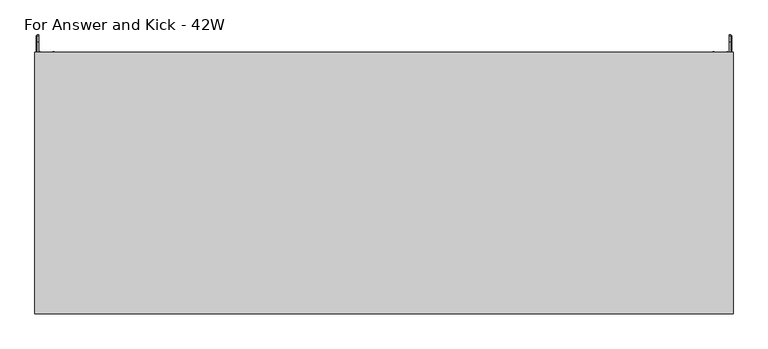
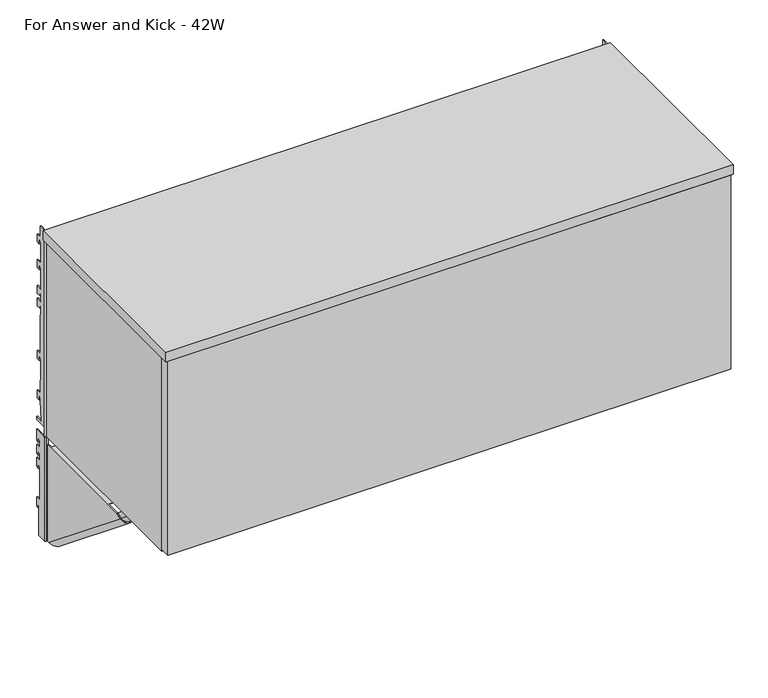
"""IFC4 building model written with IfcOpenShell, lengths in millimetres: furniture geometry, Steelcase - Universal Storage - In the Case Bin - Flat Front : For Answer and Kick - 42W."""

from ifc_helpers import new_model, si_unit, point, frame, frame_2d, origin, place, context, project, spatial, polyline, circle_curve, ellipse_curve, trimmed, segment, composite_curve, outline, extrude, faceted_brep, source, transform, mapped, element, save
from ifc_brep_helpers import plane_surface, cylinder_surface, revolved_surface, advanced_brep


def for_answer_and_kick_42w_aae77ef0(model_context):
    return source(origin(), model_context, "Body", "SolidModel", [
        advanced_brep(
        [(4.0894, 24.9864881, 1247.9655), (4.0894, 1.1327479, 1247.9655), (4.0894, 1.1203386, 1040.9809), (4.0894, 17.3410881, 1040.9809), (4.0894, 17.3410881, 1101.1280822), (4.0894, 21.4050888, 1101.1280822), (4.0894, 21.4050888, 1094.7781064), (4.0894, 24.9864881, 1094.7781064), (4.0894, 24.9864881, 1113.0407271), (4.0894, 14.7756879, 1113.0407271), (4.0894, 14.7756879, 1179.6141345), (4.0894, 18.8396885, 1179.6141345), (4.0894, 18.8396885, 1173.264086), (4.0894, 24.9864881, 1173.264086), (4.0894, 24.9864881, 1191.5267068), (4.0894, 14.7756879, 1191.5267068), (4.0894, 14.7756879, 1205.7761277), (4.0894, 18.8396885, 1205.7761277), (4.0894, 18.8396885, 1199.4260793), (4.0894, 24.9864881, 1199.4260793), (4.0894, 24.9864881, 1217.6887), (4.0894, 14.7756879, 1217.6887), (4.0894, 14.7756879, 1231.9381209), (4.0894, 18.8396885, 1231.9381209), (4.0894, 18.8396885, 1225.5880725), (4.0894, 24.9864881, 1225.5880725), (2.1844, 24.9864881, 1247.9655), (2.1844, 24.9864881, 1225.5880725), (2.1844, 18.8396885, 1225.5880725), (2.1844, 18.8396885, 1231.9381209), (2.1844, 14.7756879, 1231.9381209), (2.1844, 14.7756879, 1217.6887), (2.1844, 24.9864881, 1217.6887), (2.1844, 24.9864881, 1199.4260793), (2.1844, 18.8396885, 1199.4260793), (2.1844, 18.8396885, 1205.7761277), (2.1844, 14.7756879, 1205.7761277), (2.1844, 14.7756879, 1191.5267068), (2.1844, 24.9864881, 1191.5267068), (2.1844, 24.9864881, 1173.264086), (2.1844, 18.8396885, 1173.264086), (2.1844, 18.8396885, 1179.6141345), (2.1844, 14.7756879, 1179.6141345), (2.1844, 14.7756879, 1113.0407271), (2.1844, 24.9864881, 1113.0407271), (2.1844, 24.9864881, 1094.7781064), (2.1844, 21.4050888, 1094.7781064), (2.1844, 21.4050888, 1101.1280822), (2.1844, 17.3410881, 1101.1280822), (2.1844, 17.3410881, 1040.9809), (2.1844, -0.7757522, 1040.9809), (2.1844, -0.7757522, 1247.9655), (4.4891598, -3.080512, 1247.9655), (8.1026, -3.080512, 1247.9655), (8.1026, -1.7838863, 1247.9655), (7.4942256, -1.175512, 1247.9655), (6.3852506, -1.175512, 1247.9655), (6.3852506, -1.175512, 1040.9809), (7.4942256, -1.175512, 1040.9809), (8.1026, -1.7838863, 1040.9809), (8.1026, -3.080512, 1040.9809), (4.4891598, -3.080512, 1040.9809)],
        [
            (0, 1),
            (1, 2),
            (2, 3),
            (3, 4),
            (4, 5),
            (5, 6),
            (6, 7),
            (7, 8),
            (8, 9),
            (9, 10),
            (10, 11),
            (11, 12),
            (12, 13),
            (13, 14),
            (14, 15),
            (15, 16),
            (16, 17),
            (17, 18),
            (18, 19),
            (19, 20),
            (20, 21),
            (21, 22),
            (22, 23),
            (23, 24),
            (24, 25),
            (25, 0),
            (26, 27),
            (27, 28),
            (28, 29),
            (29, 30),
            (30, 31),
            (31, 32),
            (32, 33),
            (33, 34),
            (34, 35),
            (35, 36),
            (36, 37),
            (37, 38),
            (38, 39),
            (39, 40),
            (40, 41),
            (41, 42),
            (42, 43),
            (43, 44),
            (44, 45),
            (45, 46),
            (46, 47),
            (47, 48),
            (48, 49),
            (49, 50),
            (50, 51),
            (51, 26),
            (0, 26),
            (51, 52, circle_curve(frame((4.4891598, -0.7757522, 1247.9655), z_axis=(0.0, 0.0, 1.0), x_axis=(1.0, 0.0, 0.0)), 2.3047598)),
            (52, 53),
            (53, 54),
            (54, 55, circle_curve(frame((7.4942256, -1.7838863, 1247.9655), z_axis=(0.0, 0.0, 1.0), x_axis=(1.0, 0.0, 0.0)), 0.6083744)),
            (55, 56),
            (56, 1, circle_curve(frame((6.3852506, 1.1203386, 1247.9655), z_axis=(0.0, 0.0, -1.0), x_axis=(1.0, 0.0, 0.0)), 2.2958506)),
            (2, 57, circle_curve(frame((6.3852506, 1.1203386, 1040.9809), z_axis=(0.0, 0.0, 1.0), x_axis=(1.0, 0.0, 0.0)), 2.2958506)),
            (57, 58),
            (58, 59, circle_curve(frame((7.4942256, -1.7838863, 1040.9809), z_axis=(0.0, 0.0, -1.0), x_axis=(1.0, 0.0, 0.0)), 0.6083744)),
            (59, 60),
            (60, 61),
            (61, 50, circle_curve(frame((4.4891598, -0.7757522, 1040.9809), z_axis=(0.0, 0.0, -1.0), x_axis=(1.0, 0.0, 0.0)), 2.3047598)),
            (49, 3),
            (48, 4),
            (47, 5),
            (46, 6),
            (45, 7),
            (44, 8),
            (43, 9),
            (42, 10),
            (41, 11),
            (40, 12),
            (39, 13),
            (38, 14),
            (37, 15),
            (36, 16),
            (35, 17),
            (34, 18),
            (33, 19),
            (32, 20),
            (31, 21),
            (30, 22),
            (29, 23),
            (28, 24),
            (27, 25),
            (61, 52),
            (60, 53),
            (59, 54),
            (58, 55),
            (57, 56),
        ],
        [
            plane_surface(frame((4.0894, 1.241405, 1247.9655), z_axis=(1.0, 0.0, 0.0), x_axis=(0.0, -1.0, 0.0))),
            plane_surface(frame((2.1844, 1.241405, 1247.9655), z_axis=(-1.0, 0.0, 0.0), x_axis=(0.0, 1.0, 0.0))),
            plane_surface(frame((4.0894, 24.9864881, 1247.9655), z_axis=(0.0, 0.0, 1.0), x_axis=(-1.0, 0.0, 0.0))),
            plane_surface(frame((4.0894, 1.1327479, 1040.9809), z_axis=(0.0, 0.0, -1.0), x_axis=(-1.0, 0.0, 0.0))),
            plane_surface(frame((4.0894, 17.3410881, 1040.9809), z_axis=(0.0, 1.0, 0.0), x_axis=(-1.0, 0.0, 0.0))),
            plane_surface(frame((4.0894, 17.3410881, 1101.1280822), z_axis=(0.0, 0.0, -1.0), x_axis=(-1.0, 0.0, 0.0))),
            plane_surface(frame((4.0894, 21.4050888, 1101.1280822), z_axis=(0.0, -1.0, 0.0), x_axis=(-1.0, 0.0, 0.0))),
            plane_surface(frame((4.0894, 21.4050888, 1094.7781064), z_axis=(0.0, 0.0, -1.0), x_axis=(-1.0, 0.0, 0.0))),
            plane_surface(frame((4.0894, 24.9864881, 1094.7781064), z_axis=(0.0, 1.0, 0.0), x_axis=(-1.0, 0.0, 0.0))),
            plane_surface(frame((4.0894, 24.9864881, 1113.0407271), z_axis=(0.0, 0.0, 1.0), x_axis=(-1.0, 0.0, 0.0))),
            plane_surface(frame((4.0894, 14.7756879, 1113.0407271), z_axis=(0.0, 1.0, 0.0), x_axis=(-1.0, 0.0, 0.0))),
            plane_surface(frame((4.0894, 14.7756879, 1179.6141345), z_axis=(0.0, 0.0, -1.0), x_axis=(-1.0, 0.0, 0.0))),
            plane_surface(frame((4.0894, 18.8396885, 1179.6141345), z_axis=(0.0, -1.0, 0.0), x_axis=(-1.0, 0.0, 0.0))),
            plane_surface(frame((4.0894, 18.8396885, 1173.264086), z_axis=(0.0, 0.0, -1.0), x_axis=(-1.0, 0.0, 0.0))),
            plane_surface(frame((4.0894, 24.9864881, 1173.264086), z_axis=(0.0, 1.0, 0.0), x_axis=(-1.0, 0.0, 0.0))),
            plane_surface(frame((4.0894, 24.9864881, 1191.5267068), z_axis=(0.0, 0.0, 1.0), x_axis=(-1.0, 0.0, 0.0))),
            plane_surface(frame((4.0894, 14.7756879, 1191.5267068), z_axis=(0.0, 1.0, 0.0), x_axis=(-1.0, 0.0, 0.0))),
            plane_surface(frame((4.0894, 14.7756879, 1205.7761277), z_axis=(0.0, 0.0, -1.0), x_axis=(-1.0, 0.0, 0.0))),
            plane_surface(frame((4.0894, 18.8396885, 1205.7761277), z_axis=(0.0, -1.0, 0.0), x_axis=(-1.0, 0.0, 0.0))),
            plane_surface(frame((4.0894, 18.8396885, 1199.4260793), z_axis=(0.0, 0.0, -1.0), x_axis=(-1.0, 0.0, 0.0))),
            plane_surface(frame((4.0894, 24.9864881, 1199.4260793), z_axis=(0.0, 1.0, 0.0), x_axis=(-1.0, 0.0, 0.0))),
            plane_surface(frame((4.0894, 24.9864881, 1217.6887), z_axis=(0.0, 0.0, 1.0), x_axis=(-1.0, 0.0, 0.0))),
            plane_surface(frame((4.0894, 14.7756879, 1217.6887), z_axis=(0.0, 1.0, 0.0), x_axis=(-1.0, 0.0, 0.0))),
            plane_surface(frame((4.0894, 14.7756879, 1231.9381209), z_axis=(0.0, 0.0, -1.0), x_axis=(-1.0, 0.0, 0.0))),
            plane_surface(frame((4.0894, 18.8396885, 1231.9381209), z_axis=(0.0, -1.0, 0.0), x_axis=(-1.0, 0.0, 0.0))),
            plane_surface(frame((4.0894, 18.8396885, 1225.5880725), z_axis=(0.0, 0.0, -1.0), x_axis=(-1.0, 0.0, 0.0))),
            plane_surface(frame((4.0894, 24.9864881, 1225.5880725), z_axis=(0.0, 1.0, 0.0), x_axis=(-1.0, 0.0, 0.0))),
            cylinder_surface(frame((4.4891598, -0.7757522, 1040.9809), z_axis=(0.0, 0.0, 1.0), x_axis=(1.0, 0.0, 0.0)), 2.3047598),
            plane_surface(frame((4.4891598, -3.080512, 1247.9655), z_axis=(0.0, -1.0, 0.0), x_axis=(0.0, 0.0, -1.0))),
            plane_surface(frame((8.1026, -3.080512, 1247.9655), z_axis=(1.0, 0.0, 0.0), x_axis=(0.0, 0.0, -1.0))),
            cylinder_surface(frame((7.4942256, -1.7838863, 1040.9809), z_axis=(0.0, 0.0, 1.0), x_axis=(1.0, 0.0, 0.0)), 0.6083744),
            plane_surface(frame((7.4942256, -1.175512, 1247.9655), z_axis=(0.0, 1.0, 0.0), x_axis=(0.0, 0.0, -1.0))),
            revolved_surface(polyline([(8.6811012, 1.1203386, 1040.9809), (8.6811012, 1.1203386, 1247.9655)]), (6.3852506, 1.1203386, 1040.9809), (0.0, 0.0, -1.0)),
        ],
        [
            (0, [[1, 2, 3, 4, 5, 6, 7, 8, 9, 10, 11, 12, 13, 14, 15, 16, 17, 18, 19, 20, 21, 22, 23, 24, 25, 26]]),
            (1, [[27, 28, 29, 30, 31, 32, 33, 34, 35, 36, 37, 38, 39, 40, 41, 42, 43, 44, 45, 46, 47, 48, 49, 50, 51, 52]]),
            (2, [[-1, 53, -52, 54, 55, 56, 57, 58, 59]]),
            (3, [[-3, 60, 61, 62, 63, 64, 65, -50, 66]]),
            (4, [[-4, -66, -49, 67]]),
            (5, [[-5, -67, -48, 68]]),
            (6, [[-6, -68, -47, 69]]),
            (7, [[-7, -69, -46, 70]]),
            (8, [[-8, -70, -45, 71]]),
            (9, [[-9, -71, -44, 72]]),
            (10, [[-10, -72, -43, 73]]),
            (11, [[-11, -73, -42, 74]]),
            (12, [[-12, -74, -41, 75]]),
            (13, [[-13, -75, -40, 76]]),
            (14, [[-14, -76, -39, 77]]),
            (15, [[-15, -77, -38, 78]]),
            (16, [[-16, -78, -37, 79]]),
            (17, [[-17, -79, -36, 80]]),
            (18, [[-18, -80, -35, 81]]),
            (19, [[-19, -81, -34, 82]]),
            (20, [[-20, -82, -33, 83]]),
            (21, [[-21, -83, -32, 84]]),
            (22, [[-22, -84, -31, 85]]),
            (23, [[-23, -85, -30, 86]]),
            (24, [[-24, -86, -29, 87]]),
            (25, [[-25, -87, -28, 88]]),
            (26, [[-26, -88, -27, -53]]),
            (27, [[-54, -51, -65, 89]]),
            (28, [[-55, -89, -64, 90]]),
            (29, [[-56, -90, -63, 91]]),
            (30, [[-57, -91, -62, 92]]),
            (31, [[-58, -92, -61, 93]]),
            (32, [[-59, -93, -60, -2]]),
        ],
    ),
        advanced_brep(
        [(1062.7106, 24.9864881, 1247.9655), (1062.7106, 24.9864881, 1225.5880725), (1062.7106, 18.8396885, 1225.5880725), (1062.7106, 18.8396885, 1231.9381209), (1062.7106, 14.7756879, 1231.9381209), (1062.7106, 14.7756879, 1217.6887), (1062.7106, 24.9864881, 1217.6887), (1062.7106, 24.9864881, 1199.4260793), (1062.7106, 18.8396885, 1199.4260793), (1062.7106, 18.8396885, 1205.7761277), (1062.7106, 14.7756879, 1205.7761277), (1062.7106, 14.7756879, 1191.5267068), (1062.7106, 24.9864881, 1191.5267068), (1062.7106, 24.9864881, 1173.264086), (1062.7106, 18.8396885, 1173.264086), (1062.7106, 18.8396885, 1179.6141345), (1062.7106, 14.7756879, 1179.6141345), (1062.7106, 14.7756879, 1113.0407271), (1062.7106, 24.9864881, 1113.0407271), (1062.7106, 24.9864881, 1094.7781064), (1062.7106, 21.4050888, 1094.7781064), (1062.7106, 21.4050888, 1101.1280822), (1062.7106, 17.3410881, 1101.1280822), (1062.7106, 17.3410881, 1040.9809), (1062.7106, 1.1327479, 1040.9809), (1062.7106, 1.1203386, 1247.9655), (1064.6156, -0.7757522, 1247.9655), (1064.6156, -0.7757522, 1040.9809), (1064.6156, 17.3410881, 1040.9809), (1064.6156, 17.3410881, 1101.1280822), (1064.6156, 21.4050888, 1101.1280822), (1064.6156, 21.4050888, 1094.7781064), (1064.6156, 24.9864881, 1094.7781064), (1064.6156, 24.9864881, 1113.0407271), (1064.6156, 14.7756879, 1113.0407271), (1064.6156, 14.7756879, 1179.6141345), (1064.6156, 18.8396885, 1179.6141345), (1064.6156, 18.8396885, 1173.264086), (1064.6156, 24.9864881, 1173.264086), (1064.6156, 24.9864881, 1191.5267068), (1064.6156, 14.7756879, 1191.5267068), (1064.6156, 14.7756879, 1205.7761277), (1064.6156, 18.8396885, 1205.7761277), (1064.6156, 18.8396885, 1199.4260793), (1064.6156, 24.9864881, 1199.4260793), (1064.6156, 24.9864881, 1217.6887), (1064.6156, 14.7756879, 1217.6887), (1064.6156, 14.7756879, 1231.9381209), (1064.6156, 18.8396885, 1231.9381209), (1064.6156, 18.8396885, 1225.5880725), (1064.6156, 24.9864881, 1225.5880725), (1064.6156, 24.9864881, 1247.9655), (1062.3108402, -3.080512, 1040.9809), (1058.9006, -3.080512, 1040.9809), (1058.9006, -1.7838863, 1040.9809), (1059.5089744, -1.175512, 1040.9809), (1060.4147494, -1.175512, 1040.9809), (1060.4147494, -1.175512, 1247.9655), (1059.5089744, -1.175512, 1247.9655), (1058.9006, -1.7838863, 1247.9655), (1058.9006, -3.080512, 1247.9655), (1062.3108402, -3.080512, 1247.9655)],
        [
            (0, 1),
            (1, 2),
            (2, 3),
            (3, 4),
            (4, 5),
            (5, 6),
            (6, 7),
            (7, 8),
            (8, 9),
            (9, 10),
            (10, 11),
            (11, 12),
            (12, 13),
            (13, 14),
            (14, 15),
            (15, 16),
            (16, 17),
            (17, 18),
            (18, 19),
            (19, 20),
            (20, 21),
            (21, 22),
            (22, 23),
            (23, 24),
            (24, 25),
            (25, 0),
            (26, 27),
            (27, 28),
            (28, 29),
            (29, 30),
            (30, 31),
            (31, 32),
            (32, 33),
            (33, 34),
            (34, 35),
            (35, 36),
            (36, 37),
            (37, 38),
            (38, 39),
            (39, 40),
            (40, 41),
            (41, 42),
            (42, 43),
            (43, 44),
            (44, 45),
            (45, 46),
            (46, 47),
            (47, 48),
            (48, 49),
            (49, 50),
            (50, 51),
            (51, 26),
            (0, 51),
            (50, 1),
            (49, 2),
            (48, 3),
            (47, 4),
            (46, 5),
            (45, 6),
            (44, 7),
            (43, 8),
            (42, 9),
            (41, 10),
            (40, 11),
            (39, 12),
            (38, 13),
            (37, 14),
            (36, 15),
            (35, 16),
            (34, 17),
            (33, 18),
            (32, 19),
            (31, 20),
            (30, 21),
            (29, 22),
            (28, 23),
            (27, 52, circle_curve(frame((1062.3108402, -0.7757522, 1040.9809), z_axis=(0.0, 0.0, -1.0), x_axis=(0.0, 1.0, 0.0)), 2.3047598)),
            (52, 53),
            (53, 54),
            (54, 55, circle_curve(frame((1059.5089744, -1.7838863, 1040.9809), z_axis=(0.0, 0.0, -1.0), x_axis=(0.0, 1.0, 0.0)), 0.6083744)),
            (55, 56),
            (56, 24, circle_curve(frame((1060.4147494, 1.1203386, 1040.9809), z_axis=(0.0, 0.0, 1.0), x_axis=(0.0, 1.0, 0.0)), 2.2958506)),
            (25, 57, circle_curve(frame((1060.4147494, 1.1203386, 1247.9655), z_axis=(0.0, 0.0, -1.0), x_axis=(0.0, 1.0, 0.0)), 2.2958506)),
            (57, 58),
            (58, 59, circle_curve(frame((1059.5089744, -1.7838863, 1247.9655), z_axis=(0.0, 0.0, 1.0), x_axis=(0.0, 1.0, 0.0)), 0.6083744)),
            (59, 60),
            (60, 61),
            (61, 26, circle_curve(frame((1062.3108402, -0.7757522, 1247.9655), z_axis=(0.0, 0.0, 1.0), x_axis=(0.0, 1.0, 0.0)), 2.3047598)),
            (56, 57),
            (55, 58),
            (54, 59),
            (53, 60),
            (52, 61),
        ],
        [
            plane_surface(frame((1062.7106, 24.9864881, 1247.9655), z_axis=(-1.0, 0.0, 0.0), x_axis=(0.0, 0.0, -1.0))),
            plane_surface(frame((1064.6156, 24.9864881, 1247.9655), z_axis=(1.0, 0.0, 0.0), x_axis=(0.0, 0.0, 1.0))),
            plane_surface(frame((1062.7106, 24.9864881, 1247.9655), z_axis=(0.0, 1.0, 0.0), x_axis=(1.0, 0.0, 0.0))),
            plane_surface(frame((1062.7106, 24.9864881, 1225.5880725), z_axis=(0.0, 0.0, -1.0), x_axis=(1.0, 0.0, 0.0))),
            plane_surface(frame((1062.7106, 18.8396885, 1225.5880725), z_axis=(0.0, -1.0, 0.0), x_axis=(1.0, 0.0, 0.0))),
            plane_surface(frame((1062.7106, 18.8396885, 1231.9381209), z_axis=(0.0, 0.0, -1.0), x_axis=(1.0, 0.0, 0.0))),
            plane_surface(frame((1062.7106, 14.7756879, 1231.9381209), z_axis=(0.0, 1.0, 0.0), x_axis=(1.0, 0.0, 0.0))),
            plane_surface(frame((1062.7106, 14.7756879, 1217.6887), z_axis=(0.0, 0.0, 1.0), x_axis=(1.0, 0.0, 0.0))),
            plane_surface(frame((1062.7106, 24.9864881, 1217.6887), z_axis=(0.0, 1.0, 0.0), x_axis=(1.0, 0.0, 0.0))),
            plane_surface(frame((1062.7106, 24.9864881, 1199.4260793), z_axis=(0.0, 0.0, -1.0), x_axis=(1.0, 0.0, 0.0))),
            plane_surface(frame((1062.7106, 18.8396885, 1199.4260793), z_axis=(0.0, -1.0, 0.0), x_axis=(1.0, 0.0, 0.0))),
            plane_surface(frame((1062.7106, 18.8396885, 1205.7761277), z_axis=(0.0, 0.0, -1.0), x_axis=(1.0, 0.0, 0.0))),
            plane_surface(frame((1062.7106, 14.7756879, 1205.7761277), z_axis=(0.0, 1.0, 0.0), x_axis=(1.0, 0.0, 0.0))),
            plane_surface(frame((1062.7106, 14.7756879, 1191.5267068), z_axis=(0.0, 0.0, 1.0), x_axis=(1.0, 0.0, 0.0))),
            plane_surface(frame((1062.7106, 24.9864881, 1191.5267068), z_axis=(0.0, 1.0, 0.0), x_axis=(1.0, 0.0, 0.0))),
            plane_surface(frame((1062.7106, 24.9864881, 1173.264086), z_axis=(0.0, 0.0, -1.0), x_axis=(1.0, 0.0, 0.0))),
            plane_surface(frame((1062.7106, 18.8396885, 1173.264086), z_axis=(0.0, -1.0, 0.0), x_axis=(1.0, 0.0, 0.0))),
            plane_surface(frame((1062.7106, 18.8396885, 1179.6141345), z_axis=(0.0, 0.0, -1.0), x_axis=(1.0, 0.0, 0.0))),
            plane_surface(frame((1062.7106, 14.7756879, 1179.6141345), z_axis=(0.0, 1.0, 0.0), x_axis=(1.0, 0.0, 0.0))),
            plane_surface(frame((1062.7106, 14.7756879, 1113.0407271), z_axis=(0.0, 0.0, 1.0), x_axis=(1.0, 0.0, 0.0))),
            plane_surface(frame((1062.7106, 24.9864881, 1113.0407271), z_axis=(0.0, 1.0, 0.0), x_axis=(1.0, 0.0, 0.0))),
            plane_surface(frame((1062.7106, 24.9864881, 1094.7781064), z_axis=(0.0, 0.0, -1.0), x_axis=(1.0, 0.0, 0.0))),
            plane_surface(frame((1062.7106, 21.4050888, 1094.7781064), z_axis=(0.0, -1.0, 0.0), x_axis=(1.0, 0.0, 0.0))),
            plane_surface(frame((1062.7106, 21.4050888, 1101.1280822), z_axis=(0.0, 0.0, -1.0), x_axis=(1.0, 0.0, 0.0))),
            plane_surface(frame((1062.7106, 17.3410881, 1101.1280822), z_axis=(0.0, 1.0, 0.0), x_axis=(1.0, 0.0, 0.0))),
            plane_surface(frame((1062.7106, 17.3410881, 1040.9809), z_axis=(0.0, 0.0, -1.0), x_axis=(1.0, 0.0, 0.0))),
            plane_surface(frame((1062.7106, 1.1327479, 1247.9655), z_axis=(0.0, 0.0, 1.0), x_axis=(1.0, 0.0, 0.0))),
            revolved_surface(polyline([(1060.4147494, 3.4161892, 1040.9809), (1060.4147494, 3.4161892, 1247.9655)]), (1060.4147494, 1.1203386, 1040.9809), (0.0, 0.0, -1.0)),
            plane_surface(frame((1060.4147494, -1.175512, 1247.9655), z_axis=(3.8388970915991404e-11, 1.0, 0.0), x_axis=(0.0, 0.0, -1.0))),
            cylinder_surface(frame((1059.5089744, -1.7838863, 1040.9809), z_axis=(0.0, 0.0, 1.0), x_axis=(0.0, 1.0, 0.0)), 0.6083744),
            plane_surface(frame((1058.9006, -1.7838863, 1247.9655), z_axis=(-1.0, 0.0, 0.0), x_axis=(0.0, 0.0, -1.0))),
            plane_surface(frame((1058.9006, -3.080512, 1247.9655), z_axis=(6.7372088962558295e-12, -1.0, 0.0), x_axis=(0.0, 0.0, -1.0))),
            cylinder_surface(frame((1062.3108402, -0.7757522, 1040.9809), z_axis=(0.0, 0.0, 1.0), x_axis=(0.0, 1.0, 0.0)), 2.3047598),
        ],
        [
            (0, [[1, 2, 3, 4, 5, 6, 7, 8, 9, 10, 11, 12, 13, 14, 15, 16, 17, 18, 19, 20, 21, 22, 23, 24, 25, 26]]),
            (1, [[27, 28, 29, 30, 31, 32, 33, 34, 35, 36, 37, 38, 39, 40, 41, 42, 43, 44, 45, 46, 47, 48, 49, 50, 51, 52]]),
            (2, [[-1, 53, -51, 54]]),
            (3, [[-2, -54, -50, 55]]),
            (4, [[-3, -55, -49, 56]]),
            (5, [[-4, -56, -48, 57]]),
            (6, [[-5, -57, -47, 58]]),
            (7, [[-6, -58, -46, 59]]),
            (8, [[-7, -59, -45, 60]]),
            (9, [[-8, -60, -44, 61]]),
            (10, [[-9, -61, -43, 62]]),
            (11, [[-10, -62, -42, 63]]),
            (12, [[-11, -63, -41, 64]]),
            (13, [[-12, -64, -40, 65]]),
            (14, [[-13, -65, -39, 66]]),
            (15, [[-14, -66, -38, 67]]),
            (16, [[-15, -67, -37, 68]]),
            (17, [[-16, -68, -36, 69]]),
            (18, [[-17, -69, -35, 70]]),
            (19, [[-18, -70, -34, 71]]),
            (20, [[-19, -71, -33, 72]]),
            (21, [[-20, -72, -32, 73]]),
            (22, [[-21, -73, -31, 74]]),
            (23, [[-22, -74, -30, 75]]),
            (24, [[-23, -75, -29, 76]]),
            (25, [[-24, -76, -28, 77, 78, 79, 80, 81, 82]]),
            (26, [[-26, 83, 84, 85, 86, 87, 88, -52, -53]]),
            (27, [[-83, -25, -82, 89]]),
            (28, [[-84, -89, -81, 90]]),
            (29, [[-85, -90, -80, 91]]),
            (30, [[-86, -91, -79, 92]]),
            (31, [[-87, -92, -78, 93]]),
            (32, [[-88, -93, -77, -27]]),
        ],
    ),
        advanced_brep(
        [(1037.7424, -230.0833372, 1233.8431), (1037.7424, 1.1327479, 1046.6079738), (1035.6342, 1.1327479, 1046.6079738), (1035.6342, -230.0833372, 1233.8431), (1035.6342, 1.1327479, 1040.9809), (1035.6342, -7.7654502, 1040.9809), (1035.6342, -240.6555763, 1229.5716381), (1058.9006, -7.7654502, 1040.9809), (1058.9006, -240.6555763, 1229.5716381), (1058.9006, 1.1327479, 1040.9809), (1058.9006, 1.1327479, 1046.6079738), (1058.9006, -3.080512, 1050.019805), (1058.9006, -3.080512, 1233.8431), (1058.9006, -230.0833372, 1233.8431), (1056.7924009, 1.1327479, 1046.6079738), (1056.7924009, -3.080512, 1050.019805), (1056.7924009, -7.7654502, 1040.9809), (1056.7924009, -240.6555763, 1229.5716381), (1056.7924009, -230.0833372, 1233.8431), (1056.7924009, -200.311512, 1233.8431), (1056.7924009, -200.311512, 1233.0049163), (1056.7924009, -14.0787123, 1233.0049163), (1056.7924009, -14.0787123, 1233.8431), (1056.7924009, -3.080512, 1233.8431), (1056.7924009, 1.1327479, 1040.9809), (1037.7424, -7.7654502, 1040.9809), (1037.7424, -240.6555763, 1229.5716381), (1037.7424, 1.1327479, 1040.9809), (1027.8617978, -200.311512, 1233.8431), (1027.8617978, -200.311512, 1252.2581016), (1027.0236, -200.311512, 1252.2581016), (1027.0236, -200.311512, 1233.0049163), (1027.0236, -82.5825138, 1252.2581016), (1027.8617978, -82.5825138, 1252.2581016), (1027.8617978, -82.5825138, 1233.8431), (1027.0236, -82.5825138, 1233.8431), (1027.0236, -14.0787123, 1233.8431), (1027.0236, -14.0787123, 1233.0049163)],
        [
            (0, 1),
            (1, 2),
            (2, 3),
            (3, 0),
            (2, 4),
            (4, 5),
            (5, 6),
            (6, 3),
            (5, 7, ellipse_curve(frame((1047.2674, -7.7654502, 1040.9809), z_axis=(0.0, 0.0, 1.0), x_axis=(0.0, -1.0, 0.0)), 18.4853359, 11.6332)),
            (7, 8),
            (8, 6, ellipse_curve(frame((1047.2674, -240.6555763, 1229.5716381), z_axis=(0.0, 0.374606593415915, -0.9271838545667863), x_axis=(0.0, -0.9271838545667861, -0.3746065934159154)), 13.3008659, 11.6332)),
            (7, 9),
            (9, 10),
            (10, 11),
            (11, 12),
            (12, 13),
            (13, 8),
            (10, 14),
            (14, 15),
            (15, 11),
            (16, 17),
            (17, 18),
            (18, 19),
            (19, 20),
            (20, 21),
            (21, 22),
            (22, 23),
            (23, 15),
            (14, 24),
            (24, 16),
            (16, 25, ellipse_curve(frame((1047.2674005, -7.7654502, 1040.9809), z_axis=(0.0, 0.0, -1.0), x_axis=(0.0, 1.0, 0.0)), 15.135374, 9.5250005)),
            (25, 26),
            (26, 17, ellipse_curve(frame((1047.2674005, -240.6555763, 1229.5716381), z_axis=(0.0, -0.374606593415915, 0.9271838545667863), x_axis=(0.0, 0.9271838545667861, 0.3746065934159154)), 10.8904475, 9.5250005)),
            (0, 26),
            (25, 27),
            (27, 1),
            (13, 18),
            (24, 9),
            (4, 27),
            (28, 29),
            (29, 30),
            (30, 31),
            (31, 20),
            (19, 28),
            (32, 33),
            (33, 34),
            (34, 35),
            (35, 32),
            (35, 36),
            (36, 37),
            (37, 31),
            (30, 32),
            (28, 34),
            (33, 29),
            (36, 22),
            (21, 37),
            (12, 23),
        ],
        [
            plane_surface(frame((1037.7424, -241.2702093, 1242.902052), z_axis=(0.0, 0.6293204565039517, 0.7771459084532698), x_axis=(0.0, 0.7771459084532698, -0.6293204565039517))),
            plane_surface(frame((1035.6342, -241.2702093, 1242.902052), z_axis=(-1.0000000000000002, 0.0, 0.0), x_axis=(0.0, 0.7771459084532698, -0.6293204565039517))),
            cylinder_surface(frame((1047.2674, 5.728998, 1030.0533094), z_axis=(0.0, -0.7771459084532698, 0.6293204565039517), x_axis=(0.0, 0.6293204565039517, 0.7771459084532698)), 11.6332),
            plane_surface(frame((1058.9006, -247.5463438, 1235.1516726), z_axis=(1.0000000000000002, 0.0, 0.0), x_axis=(0.0, 0.7771459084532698, -0.6293204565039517))),
            plane_surface(frame((1058.9006, -241.2702093, 1242.902052), z_axis=(0.0, 0.6293204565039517, 0.7771459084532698), x_axis=(0.0, 0.7771459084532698, -0.6293204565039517))),
            plane_surface(frame((1056.7924009, -241.2702093, 1242.902052), z_axis=(-1.0000000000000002, 0.0, 0.0), x_axis=(0.0, 0.7771459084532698, -0.6293204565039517))),
            revolved_surface(polyline([(1047.2674005, 7.3699238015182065, 1040.980900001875), (1047.2674005, -238.76446812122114, 1240.2966349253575)]), (1047.2674005, 5.728998, 1030.0533094), (0.0, 0.7771459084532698, -0.6293204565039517)),
            plane_surface(frame((1037.7424, -247.5463438, 1235.1516726), z_axis=(1.0000000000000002, 0.0, 0.0), x_axis=(0.0, 0.7771459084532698, -0.6293204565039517))),
            plane_surface(frame((1066.8, -257.2236519, 1222.8777011), z_axis=(0.0, -0.374606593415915, 0.9271838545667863), x_axis=(-1.0, 0.0, 0.0))),
            plane_surface(frame((1066.8, 1.1327479, 1040.9809), z_axis=(0.0, 0.0, -1.0), x_axis=(-1.0, 0.0, 0.0))),
            plane_surface(frame((1066.8, 1.1327479, 1053.6809), z_axis=(0.0, 1.0, 0.0), x_axis=(-1.0, 0.0, 0.0))),
            plane_surface(frame((1027.0236, -200.311512, 1252.2581016), z_axis=(0.0, -1.0, 0.0), x_axis=(0.0, 0.0, -1.0))),
            plane_surface(frame((1027.0236, -82.5825138, 1252.2581016), z_axis=(0.0, 1.0, 0.0), x_axis=(0.0, 0.0, 1.0))),
            plane_surface(frame((1027.0236, -200.311512, 1252.2581016), z_axis=(-1.0, 0.0, 0.0), x_axis=(0.0, 1.0, 0.0))),
            plane_surface(frame((1027.8617978, -200.311512, 1233.8431), z_axis=(1.0, 0.0, 0.0), x_axis=(0.0, 1.0, 0.0))),
            plane_surface(frame((1027.8617978, -200.311512, 1252.2581016), z_axis=(0.0, 0.0, 1.0), x_axis=(0.0, 1.0, 0.0))),
            plane_surface(frame((1027.0236, -14.0787123, 1233.8431), z_axis=(0.0, 1.0, 0.0), x_axis=(0.0, 0.0, 1.0))),
            plane_surface(frame((1027.0236, -200.311512, 1233.0049163), z_axis=(0.0, 0.0, -1.0), x_axis=(0.0, 1.0, 0.0))),
            plane_surface(frame((1058.9006, -200.311512, 1233.8431), z_axis=(0.0, 0.0, 1.0), x_axis=(0.0, 1.0, 0.0))),
            plane_surface(frame((1058.9006, -3.080512, 1050.019805), z_axis=(0.0, 1.0, 0.0), x_axis=(-1.0, 0.0, 0.0))),
        ],
        [
            (0, [[1, 2, 3, 4]]),
            (1, [[-3, 5, 6, 7, 8]]),
            (2, [[-7, 9, 10, 11]]),
            (3, [[-10, 12, 13, 14, 15, 16, 17]]),
            (4, [[18, 19, 20, -14]]),
            (5, [[21, 22, 23, 24, 25, 26, 27, 28, -19, 29, 30]]),
            (6, [[-21, 31, 32, 33]]),
            (7, [[-1, 34, -32, 35, 36]]),
            (8, [[-4, -8, -11, -17, 37, -22, -33, -34]]),
            (9, [[38, -12, -9, -6, 39, -35, -31, -30]]),
            (10, [[-38, -29, -18, -13]]),
            (10, [[-39, -5, -2, -36]]),
            (11, [[40, 41, 42, 43, -24, 44]]),
            (12, [[45, 46, 47, 48]]),
            (13, [[-48, 49, 50, 51, -42, 52]]),
            (14, [[-40, 53, -46, 54]]),
            (15, [[-41, -54, -45, -52]]),
            (16, [[-50, 55, -26, 56]]),
            (17, [[-51, -56, -25, -43]]),
            (18, [[57, -27, -55, -49, -47, -53, -44, -23, -37, -16]]),
            (19, [[-15, -20, -28, -57]]),
        ],
    ),
        advanced_brep(
        [(8.1026, -3.080512, 1050.019805), (8.1026, -3.080512, 1233.8431), (8.1026, -14.0787123, 1233.8431), (8.1026, -14.0787123, 1233.0049163), (8.1026, -200.311512, 1233.0049163), (8.1026, -200.311512, 1233.8431), (8.1026, -230.0833372, 1233.8431), (8.1026, -240.6555763, 1229.5716381), (8.1026, -7.7654502, 1040.9809), (8.1026, 1.1327479, 1040.9809), (8.1026, 1.1327479, 1046.6079738), (5.9944, -3.080512, 1233.8431), (5.9944, -3.080512, 1050.019805), (5.9944, 1.1327479, 1046.6079738), (5.9944, 1.1327479, 1040.9809), (5.9944, -7.7654502, 1040.9809), (5.9944, -240.6555763, 1229.5716381), (5.9944, -230.0833372, 1233.8431), (39.5732022, -200.311512, 1233.8431), (39.5732022, -82.5825138, 1233.8431), (40.4114, -82.5825138, 1233.8431), (40.4114, -14.0787123, 1233.8431), (29.2608, -7.7654502, 1040.9809), (29.2608, -240.6555763, 1229.5716381), (29.2608, 1.1327479, 1040.9809), (29.2608, 1.1327479, 1046.6079738), (29.2608, -230.0833372, 1233.8431), (27.1526009, 1.1327479, 1046.6079738), (27.1526009, -230.0833372, 1233.8431), (27.1526009, 1.1327479, 1040.9809), (27.1526009, -7.7654502, 1040.9809), (27.1526009, -240.6555763, 1229.5716381), (40.4114, -200.311512, 1233.0049163), (40.4114, -200.311512, 1252.2581016), (39.5732022, -200.311512, 1252.2581016), (40.4114, -14.0787123, 1233.0049163), (40.4114, -82.5825138, 1252.2581016), (39.5732022, -82.5825138, 1252.2581016)],
        [
            (0, 1),
            (1, 2),
            (2, 3),
            (3, 4),
            (4, 5),
            (5, 6),
            (6, 7),
            (7, 8),
            (8, 9),
            (9, 10),
            (10, 0),
            (11, 12),
            (12, 13),
            (13, 14),
            (14, 15),
            (15, 16),
            (16, 17),
            (17, 11),
            (17, 6),
            (5, 18),
            (18, 19),
            (19, 20),
            (20, 21),
            (21, 2),
            (1, 11),
            (0, 12),
            (10, 13),
            (15, 22, ellipse_curve(frame((17.6276, -7.7654502, 1040.9809), z_axis=(0.0, 0.0, 1.0), x_axis=(0.0, -1.0, 0.0)), 18.4853359, 11.6332)),
            (22, 23),
            (23, 16, ellipse_curve(frame((17.6276, -240.6555763, 1229.5716381), z_axis=(0.0, 0.374606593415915, -0.9271838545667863), x_axis=(0.0, -0.9271838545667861, -0.3746065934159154)), 13.3008659, 11.6332)),
            (22, 24),
            (24, 25),
            (25, 26),
            (26, 23),
            (25, 27),
            (27, 28),
            (28, 26),
            (27, 29),
            (29, 30),
            (30, 31),
            (31, 28),
            (7, 31, ellipse_curve(frame((17.6276005, -240.6555763, 1229.5716381), z_axis=(0.0, -0.374606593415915, 0.9271838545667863), x_axis=(0.0, 0.9271838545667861, 0.3746065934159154)), 10.8904475, 9.5250005)),
            (30, 8, ellipse_curve(frame((17.6276005, -7.7654502, 1040.9809), z_axis=(0.0, 0.0, -1.0), x_axis=(0.0, 1.0, 0.0)), 15.135374, 9.5250005)),
            (14, 9),
            (29, 24),
            (4, 32),
            (32, 33),
            (33, 34),
            (34, 18),
            (21, 35),
            (35, 3),
            (35, 32),
            (20, 36),
            (36, 33),
            (19, 37),
            (37, 36),
            (37, 34),
        ],
        [
            plane_surface(frame((8.1026, -230.0833372, 1233.8431), z_axis=(1.0, 0.0, 0.0), x_axis=(0.0, -1.0, 0.0))),
            plane_surface(frame((5.9944, -230.0833372, 1233.8431), z_axis=(-1.0, 0.0, 0.0), x_axis=(0.0, 1.0, 0.0))),
            plane_surface(frame((8.1026, -3.080512, 1233.8431), z_axis=(0.0, 0.0, 1.0), x_axis=(-1.0, 0.0, 0.0))),
            plane_surface(frame((8.1026, -3.080512, 1050.019805), z_axis=(0.0, 1.0, 0.0), x_axis=(-1.0, 0.0, 0.0))),
            plane_surface(frame((8.1026, -241.2702093, 1242.902052), z_axis=(0.0, 0.6293204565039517, 0.7771459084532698), x_axis=(0.0, 0.7771459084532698, -0.6293204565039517))),
            cylinder_surface(frame((17.6276, 5.728998, 1030.0533094), z_axis=(0.0, -0.7771459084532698, 0.6293204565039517), x_axis=(1.0, 0.0, 0.0)), 11.6332),
            plane_surface(frame((29.2608, -247.5463438, 1235.1516726), z_axis=(1.0000000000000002, 0.0, 0.0), x_axis=(0.0, 0.7771459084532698, -0.6293204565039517))),
            plane_surface(frame((29.2608, -241.2702093, 1242.902052), z_axis=(0.0, 0.6293204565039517, 0.7771459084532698), x_axis=(0.0, 0.7771459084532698, -0.6293204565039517))),
            plane_surface(frame((27.1526009, -241.2702093, 1242.902052), z_axis=(-1.0000000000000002, 0.0, 0.0), x_axis=(0.0, 0.7771459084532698, -0.6293204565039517))),
            revolved_surface(polyline([(27.152601, 1.375646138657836, 1033.5785848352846), (27.152601, -244.75874578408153, 1232.8943197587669)]), (17.6276005, 5.728998, 1030.0533094), (0.0, 0.7771459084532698, -0.6293204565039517)),
            plane_surface(frame((1066.8, -257.2236519, 1222.8777011), z_axis=(0.0, -0.374606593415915, 0.9271838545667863), x_axis=(-1.0, 0.0, 0.0))),
            plane_surface(frame((1066.8, 1.1327479, 1040.9809), z_axis=(0.0, 0.0, -1.0), x_axis=(-1.0, 0.0, 0.0))),
            plane_surface(frame((1066.8, 1.1327479, 1053.6809), z_axis=(0.0, 1.0, 0.0), x_axis=(-1.0, 0.0, 0.0))),
            plane_surface(frame((10.5986151, -200.311512, 1233.8431), z_axis=(0.0, -1.0, 0.0), x_axis=(-1.0, 0.0, 0.0))),
            plane_surface(frame((10.5986151, -14.0787123, 1233.8431), z_axis=(0.0, 1.0, 0.0), x_axis=(1.0, 0.0, 0.0))),
            plane_surface(frame((8.1026, -200.311512, 1233.0049163), z_axis=(0.0, 0.0, -1.0), x_axis=(0.0, 1.0, 0.0))),
            plane_surface(frame((40.4114, -200.311512, 1233.0049163), z_axis=(1.0, 0.0, 0.0), x_axis=(0.0, 1.0, 0.0))),
            plane_surface(frame((38.1509305, -82.5825138, 1252.2581016), z_axis=(0.0, 1.0, 0.0), x_axis=(1.0, 0.0, 0.0))),
            plane_surface(frame((40.4114, -200.311512, 1252.2581016), z_axis=(0.0, 0.0, 1.0), x_axis=(0.0, 1.0, 0.0))),
            plane_surface(frame((39.5732022, -200.311512, 1252.2581016), z_axis=(-1.0, 0.0, 0.0), x_axis=(0.0, 1.0, 0.0))),
        ],
        [
            (0, [[1, 2, 3, 4, 5, 6, 7, 8, 9, 10, 11]]),
            (1, [[12, 13, 14, 15, 16, 17, 18]]),
            (2, [[-18, 19, -6, 20, 21, 22, 23, 24, -2, 25]]),
            (3, [[-1, 26, -12, -25]]),
            (4, [[-26, -11, 27, -13]]),
            (5, [[-16, 28, 29, 30]]),
            (6, [[-29, 31, 32, 33, 34]]),
            (7, [[-33, 35, 36, 37]]),
            (8, [[-36, 38, 39, 40, 41]]),
            (9, [[-8, 42, -40, 43]]),
            (10, [[-7, -19, -17, -30, -34, -37, -41, -42]]),
            (11, [[44, -9, -43, -39, 45, -31, -28, -15]]),
            (12, [[-44, -14, -27, -10]]),
            (12, [[-45, -38, -35, -32]]),
            (13, [[46, 47, 48, 49, -20, -5]]),
            (14, [[50, 51, -3, -24]]),
            (15, [[-46, -4, -51, 52]]),
            (16, [[-47, -52, -50, -23, 53, 54]]),
            (17, [[-53, -22, 55, 56]]),
            (18, [[-48, -54, -56, 57]]),
            (19, [[-49, -57, -55, -21]]),
        ],
    ),
        faceted_brep([(1047.8516023, -9.7789998, 1640.3955), (1047.8516023, -9.7789998, 1652.2572326), (1047.8516023, -10.6172003, 1652.2572326), (1047.8516023, -10.6172003, 1639.557281), (1047.8516023, -0.8382, 1639.557281), (1047.8516023, -0.8382266, 1640.3955), (17.0434001, -9.7789998, 1640.3955), (17.0434001, -0.8382, 1640.3955), (17.0434001, -0.8382011, 1639.557281), (17.0434001, -10.6172003, 1639.557281), (17.0434001, -10.6172003, 1652.2572326), (17.0434001, -9.7789998, 1652.2572326), (1050.4837557, -30.9238769, 1640.3955), (1051.3187599, -30.850824, 1640.3955), (1048.6930117, -0.8382, 1640.3955), (1062.7106, -0.8382, 1640.3955), (1062.7106, 0.1784978, 1640.3955), (2.1844, 0.1784978, 1640.3955), (2.1844, -0.8382, 1640.3955), (16.2019988, -0.8382, 1640.3955), (13.5762335, -30.850824, 1640.3955), (14.4176356, -30.850824, 1640.3955), (1062.7106, 0.1784978, 1247.9655), (1062.7106, -0.8382, 1247.9655), (1048.6930117, -0.8382, 1247.9655), (1051.3187599, -30.850824, 1247.9655), (1050.4837557, -30.9238769, 1247.9655), (1047.8516, -0.8382, 1247.9655), (17.0434002, -0.8382, 1247.9655), (14.4176356, -30.850824, 1247.9655), (13.5762335, -30.850824, 1247.9655), (16.2019988, -0.8382, 1247.9655), (2.1844, -0.8382, 1247.9655), (2.1844, 0.1784978, 1247.9655)], [[[0, 1, 2, 3, 4, 5]], [[6, 7, 8, 9, 10, 11]], [[1, 0, 6, 11]], [[2, 1, 11, 10]], [[3, 2, 10, 9]], [[4, 3, 9, 8]], [[0, 5, 12, 13, 14, 15, 16, 17, 18, 19, 20, 21, 7, 6]], [[22, 23, 24, 25, 26, 27, 28, 29, 30, 31, 32, 33]], [[17, 16, 22, 33]], [[18, 17, 33, 32]], [[19, 18, 32, 31]], [[20, 19, 31, 30]], [[21, 20, 30, 29]], [[7, 21, 29, 28, 8]], [[28, 27, 4, 8]], [[12, 5, 4, 27, 26]], [[13, 12, 26, 25]], [[14, 13, 25, 24]], [[15, 14, 24, 23]], [[16, 15, 23, 22]]]),
        faceted_brep([(1031.3415999, -61.4680004, 1256.4236903), (1031.3415999, -61.4680004, 1248.8037), (1031.3415999, -60.6298021, 1248.8037), (1031.3415999, -60.6298021, 1256.4236903), (33.5534002, -61.4680004, 1256.4236903), (33.5534002, -60.6298021, 1256.4236903), (33.5534002, -60.6298021, 1248.8037), (33.5534002, -61.468, 1248.8037), (17.0434001, -61.4680004, 1248.8037), (17.0434001, -61.4680004, 1247.9655), (1047.8516023, -61.4680004, 1247.9655), (1047.8516023, -61.4680004, 1248.8037), (1047.8516023, -0.8382, 1247.9655), (1047.8516023, -0.8382, 1248.8037), (17.0434001, -0.8382, 1248.8037), (17.0434001, -0.8382, 1247.9655)], [[[0, 1, 2, 3]], [[4, 5, 6, 7]], [[1, 0, 4, 7, 8, 9, 10, 11]], [[3, 2, 6, 5]], [[0, 3, 5, 4]], [[11, 10, 12, 13]], [[8, 14, 15, 9]], [[12, 10, 9, 15]], [[13, 12, 15, 14]], [[11, 13, 14, 8, 7, 6, 2, 1]]]),
        extrude(outline(composite_curve([segment(polyline([(-343.4401318, 1291.8437595), (-377.213238, 1291.8437595), (-377.213238, 1639.09375), (-30.850824, 1639.09375), (-30.850824, 1638.0577444), (-372.9486617, 1638.0577444)]), True, "CONTINUOUS"), segment(trimmed(circle_curve(frame_2d((-372.9486617, 1635.1839261)), 2.8738183), [point((-372.9486617, 1638.0577444))], [point((-375.82248, 1635.1839261))], True, "CARTESIAN"), True, "CONTINUOUS"), segment(polyline([(-375.82248, 1635.1839261), (-375.82248, 1292.9867129), (-343.4401318, 1292.9867129), (-343.4401318, 1291.8437595)]), True, "CONTINUOUS")], self_intersect=False)), frame((525.1266311, 0.0, 0.0), z_axis=(1.0, 0.0, 0.0), x_axis=(0.0, 1.0, 0.0)), (0.0, 0.0, 1.0), 16.5467378),
        extrude(outline(polyline([(1066.8, -399.4977324), (0.0, -399.4977324), (0.0, 0.0), (1066.8, 0.0), (1066.8, -399.4977324)])), frame((0.0, 0.0, 1639.490625), z_axis=(0.0, 0.0, 1.0), x_axis=(1.0, 0.0, 0.0)), (0.0, 0.0, 1.0), 19.05),
        extrude(outline(polyline([(4.4448587, -378.8585852), (1062.3703, -378.8585852), (1062.3703, -399.0261526), (4.4448587, -399.0261526), (4.4448587, -378.8585852)])), frame((0.0, 0.0, 1253.2134107), z_axis=(0.0, 0.0, 1.0), x_axis=(1.0, 0.0, 0.0)), (0.0, 0.0, 1.0), 386.3690475),
        extrude(outline(polyline([(0.0, 1657.096), (15.428165, 1657.096), (15.428165, 1635.9725192), (24.6737648, 1635.9725192), (24.6737648, 1620.2499324), (17.7141651, 1620.2499324), (17.7141651, 1627.4034202), (15.428165, 1627.4034202), (13.3707653, 1623.8398995), (13.3707653, 1584.7332049), (24.4959651, 1584.7332049), (24.4959651, 1569.0106181), (17.7141651, 1569.0106181), (17.7141651, 1576.1734076), (15.428165, 1576.1734076), (13.3707653, 1572.6099624), (13.3707653, 1533.4938907), (24.6737648, 1533.4938907), (24.6737648, 1517.7713038), (17.5768, 1517.7713038), (17.5768, 1524.9340934), (15.4248855, 1524.9340934), (13.3349998, 1521.3219111), (13.3349998, 1508.4166423), (24.6737648, 1508.4166423), (24.6737648, 1492.6940555), (17.5768, 1492.6940555), (17.5768, 1499.856845), (15.4205129, 1499.856845), (13.3933344, 1496.3530466), (13.3933344, 1483.6530466), (15.428165, 1479.2893385), (15.428165, 1403.8551467), (24.6737648, 1403.8551467), (24.6737648, 1388.1325599), (17.7141651, 1388.1325599), (17.7141651, 1395.2982562), (15.428165, 1395.2982562), (13.3306079, 1391.6651808), (13.3306079, 1353.5651808), (15.428165, 1349.9321054), (15.428165, 1325.1000701), (24.6737648, 1325.1000701), (24.6737648, 1309.3774833), (17.7141651, 1309.3774833), (17.7141651, 1316.5328605), (15.428165, 1316.5328605), (15.428165, 1303.5355433), (13.2046809, 1299.684356), (13.2046809, 1282.9679719), (11.2879653, 1282.9679719), (11.2879653, 1271.9303504), (26.4009645, 1271.9303504), (26.4009645, 1265.428), (0.0, 1265.428), (0.0, 1657.096)])), frame((1061.2882, 0.0, 0.0), z_axis=(1.0, 0.0, 0.0), x_axis=(0.0, 1.0, 0.0)), (0.0, 0.0, 1.0), 1.905),
        extrude(outline(polyline([(0.0, 1657.096), (15.428165, 1657.096), (15.428165, 1635.9725192), (24.6737648, 1635.9725192), (24.6737648, 1620.2499324), (17.7141651, 1620.2499324), (17.7141651, 1627.4034202), (15.428165, 1627.4034202), (13.3707653, 1623.8398995), (13.3707653, 1584.7332049), (24.4959651, 1584.7332049), (24.4959651, 1569.0106181), (17.7141651, 1569.0106181), (17.7141651, 1576.1734076), (15.428165, 1576.1734076), (13.3707653, 1572.6099624), (13.3707653, 1533.4938907), (24.6737648, 1533.4938907), (24.6737648, 1517.7713038), (17.5768, 1517.7713038), (17.5768, 1524.9340934), (15.4248855, 1524.9340934), (13.3349998, 1521.3219111), (13.3349998, 1508.4166423), (24.6737648, 1508.4166423), (24.6737648, 1492.6940555), (17.5768, 1492.6940555), (17.5768, 1499.856845), (15.4205129, 1499.856845), (13.3933344, 1496.3530466), (13.3933344, 1483.6530466), (15.428165, 1479.2893385), (15.428165, 1403.8551467), (24.6737648, 1403.8551467), (24.6737648, 1388.1325599), (17.7141651, 1388.1325599), (17.7141651, 1395.2982562), (15.428165, 1395.2982562), (13.3306079, 1391.6651808), (13.3306079, 1353.5651808), (15.428165, 1349.9321054), (15.428165, 1325.1000701), (24.6737648, 1325.1000701), (24.6737648, 1309.3774833), (17.7141651, 1309.3774833), (17.7141651, 1316.5328605), (15.428165, 1316.5328605), (15.428165, 1303.5355433), (13.2046809, 1299.684356), (13.2046809, 1282.9679719), (11.2879653, 1282.9679719), (11.2879653, 1271.9303504), (26.4009645, 1271.9303504), (26.4009645, 1265.428), (0.0, 1265.428), (0.0, 1657.096)])), frame((3.6068, 0.0, 0.0), z_axis=(1.0, 0.0, 0.0), x_axis=(0.0, 1.0, 0.0)), (0.0, 0.0, 1.0), 1.905),
        extrude(outline(polyline([(15.875, -377.213238), (5.5118, -377.213238), (5.5118, 0.0), (15.875, 0.0), (15.875, -377.213238)])), frame((0.0, 0.0, 1247.9655), z_axis=(0.0, 0.0, 1.0), x_axis=(1.0, 0.0, 0.0)), (0.0, 0.0, 1.0), 391.2710707),
        extrude(outline(polyline([(1065.6568665, -377.213238), (1050.925, -377.213238), (1050.925, 0.0), (1065.6568665, 0.0), (1065.6568665, -377.213238)])), frame((0.0, 0.0, 1247.9655), z_axis=(0.0, 0.0, 1.0), x_axis=(1.0, 0.0, 0.0)), (0.0, 0.0, 1.0), 391.2710707),
        extrude(outline(polyline([(-35.4584098, 1372.819257), (-27.0763996, 1372.819257), (-27.0763996, 1360.1191601), (-33.4264117, 1360.1191601), (-33.4264117, 1323.1622589), (-27.0763996, 1323.1622589), (-27.0763996, 1265.428), (-35.4584098, 1265.428), (-35.4584098, 1293.054213), (-46.1263996, 1293.054213), (-46.1263996, 1268.1875622), (-59.9694137, 1268.1875622), (-59.9694137, 1294.8575912), (-332.8542818, 1294.8575912), (-332.8542818, 1268.1875622), (-377.3042823, 1268.1875622), (-377.3042823, 1310.7072052), (-35.4584098, 1310.7072052), (-35.4584098, 1372.819257)])), frame((15.875, 0.0, 0.0), z_axis=(1.0, 0.0, 0.0), x_axis=(0.0, 1.0, 0.0)), (0.0, 0.0, 1.0), 1035.05),
    ])


if __name__ == "__main__":
    model = new_model("IFC4")
    model_context = context("Model", 3, world=origin())
    ifc_project = project(units=[si_unit("LENGTHUNIT", "METRE", prefix="MILLI")], contexts=[model_context])
    site = spatial("IfcSite", under=ifc_project)
    building = spatial("IfcBuilding", under=site)
    placement = place(None, origin())
    for_answer_and_kick_42w_shape = for_answer_and_kick_42w_aae77ef0(model_context)
    element("IfcFurniture", 1, ObjectType="Steelcase - Universal Storage - In the Case Bin - Flat Front : For Answer and Kick - 42W", at=placement, inside=building, context=model_context, shape_type="MappedRepresentation", body=[
        mapped(for_answer_and_kick_42w_shape, transform((0.0, 0.0, 0.0), x_axis=(1.0, 0.0, 0.0), y_axis=(0.0, 1.0, 0.0), z_axis=(0.0, 0.0, 1.0))),
    ])
    save(model, "model.ifc")
